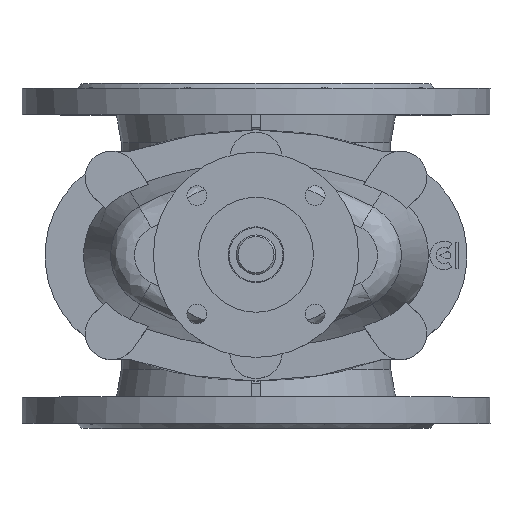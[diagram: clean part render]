
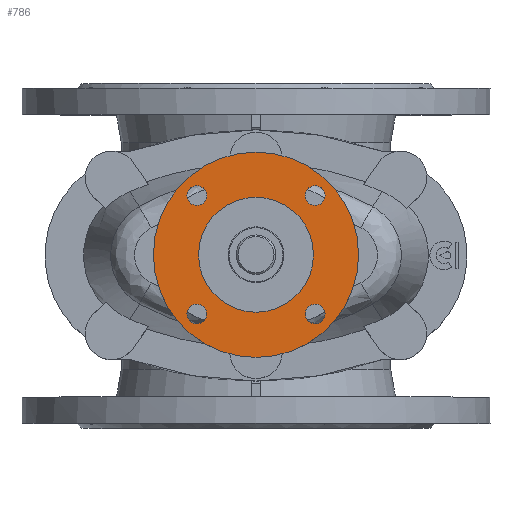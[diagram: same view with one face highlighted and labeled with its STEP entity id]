
A CAD part, top view. The second image highlights one B-rep face of the part: STEP entity #786.
In plain terms, the highlighted planar face has unit normal (0, 0, 1).
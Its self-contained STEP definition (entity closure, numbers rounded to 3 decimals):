
#786=ADVANCED_FACE('',(#2986,#2988,#2990,#2992,#2994,#2996),#2998,.T.);
#2986=FACE_BOUND('',#2987,.T.);
#2987=EDGE_LOOP('',(#5411));
#2988=FACE_BOUND('',#2989,.T.);
#2989=EDGE_LOOP('',(#5412));
#2990=FACE_BOUND('',#2991,.T.);
#2991=EDGE_LOOP('',(#5413));
#2992=FACE_BOUND('',#2993,.T.);
#2993=EDGE_LOOP('',(#5414));
#2994=FACE_BOUND('',#2995,.T.);
#2995=EDGE_LOOP('',(#5415));
#2996=FACE_BOUND('',#2997,.T.);
#2997=EDGE_LOOP('',(#5416));
#2998=PLANE('',#2999);
#2999=AXIS2_PLACEMENT_3D('',#3000,#3001,#3002);
#3000=CARTESIAN_POINT('',(0.,0.,435.));
#3001=DIRECTION('',(0.,0.,1.));
#3002=DIRECTION('',(-1.,0.,0.));
#5411=ORIENTED_EDGE('',*,*,#6613,.F.);
#5412=ORIENTED_EDGE('',*,*,#6614,.T.);
#5413=ORIENTED_EDGE('',*,*,#6615,.T.);
#5414=ORIENTED_EDGE('',*,*,#6616,.T.);
#5415=ORIENTED_EDGE('',*,*,#6623,.T.);
#5416=ORIENTED_EDGE('',*,*,#6617,.T.);
#6613=EDGE_CURVE('',#7457,#7457,#7458,.T.);
#6614=EDGE_CURVE('',#7459,#7459,#7460,.F.);
#6615=EDGE_CURVE('',#7461,#7461,#7462,.F.);
#6616=EDGE_CURVE('',#7463,#7463,#7464,.F.);
#6617=EDGE_CURVE('',#7465,#7465,#7466,.F.);
#6623=EDGE_CURVE('',#7473,#7473,#7474,.T.);
#7457=VERTEX_POINT('',#9530);
#7458=CIRCLE('',#9531,62.5);
#7459=VERTEX_POINT('',#9535);
#7460=CIRCLE('',#9536,6.);
#7461=VERTEX_POINT('',#9540);
#7462=CIRCLE('',#9541,6.);
#7463=VERTEX_POINT('',#9545);
#7464=CIRCLE('',#9546,6.);
#7465=VERTEX_POINT('',#9550);
#7466=CIRCLE('',#9551,6.);
#7473=VERTEX_POINT('',#9576);
#7474=CIRCLE('',#9577,35.);
#9530=CARTESIAN_POINT('',(-62.5,0.,435.));
#9531=AXIS2_PLACEMENT_3D('',#9532,#9533,#9534);
#9532=CARTESIAN_POINT('',(0.,0.,435.));
#9533=DIRECTION('',(0.,0.,-1.));
#9534=DIRECTION('',(-1.,0.,0.));
#9535=CARTESIAN_POINT('',(36.062,-30.062,435.));
#9536=AXIS2_PLACEMENT_3D('',#9537,#9538,#9539);
#9537=CARTESIAN_POINT('',(36.062,-36.062,435.));
#9538=DIRECTION('',(0.,0.,1.));
#9539=DIRECTION('',(0.,1.,0.));
#9540=CARTESIAN_POINT('',(-30.062,-36.062,435.));
#9541=AXIS2_PLACEMENT_3D('',#9542,#9543,#9544);
#9542=CARTESIAN_POINT('',(-36.062,-36.062,435.));
#9543=DIRECTION('',(0.,0.,1.));
#9544=DIRECTION('',(1.,0.,0.));
#9545=CARTESIAN_POINT('',(-36.062,30.062,435.));
#9546=AXIS2_PLACEMENT_3D('',#9547,#9548,#9549);
#9547=CARTESIAN_POINT('',(-36.062,36.062,435.));
#9548=DIRECTION('',(0.,0.,1.));
#9549=DIRECTION('',(0.,-1.,0.));
#9550=CARTESIAN_POINT('',(30.062,36.062,435.));
#9551=AXIS2_PLACEMENT_3D('',#9552,#9553,#9554);
#9552=CARTESIAN_POINT('',(36.062,36.062,435.));
#9553=DIRECTION('',(0.,0.,1.));
#9554=DIRECTION('',(-1.,0.,0.));
#9576=CARTESIAN_POINT('',(-35.,0.,435.));
#9577=AXIS2_PLACEMENT_3D('',#9578,#9579,#9580);
#9578=CARTESIAN_POINT('',(0.,0.,435.));
#9579=DIRECTION('',(0.,0.,-1.));
#9580=DIRECTION('',(-1.,0.,0.));
